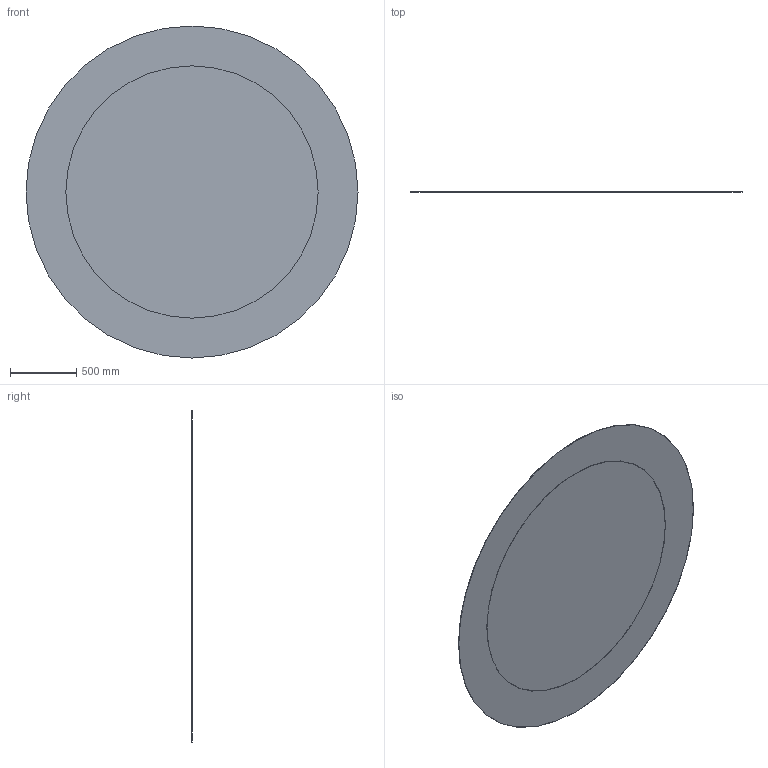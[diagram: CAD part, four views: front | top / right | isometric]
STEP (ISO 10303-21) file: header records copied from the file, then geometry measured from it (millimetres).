
FILE_DESCRIPTION(/* description */ (''),/* implementation_level */ '2;1');
FILE_NAME(/* name */ 'X:\PROGETTI\Tappeto ONDA\TA03.stp',/* time_stamp */ '2023-09-04T15:01:48+02:00',/* author */ ('Michela.Gerbotto'),/* organization */ (''),/* preprocessor_version */ 'ST-DEVELOPER v18.1',/* originating_system */ 'Autodesk Inventor 2022',/* authorisation */ '');
FILE_SCHEMA (('AUTOMOTIVE_DESIGN { 1 0 10303 214 3 1 1 }'));
Length unit declared in the file: millimetre
Products named in the file (1): Parte19
Bounding box: 2500 x 5 x 2500 mm (x, y, z)
Volume: 24526705.4 mm3; surface area: 9899445.8 mm2
Topology: 2 solids, 2 shells, 10 faces, 18 edges, 12 vertices
Faces by surface type: plane 4, torus 3, cylinder 3
Full cylindrical faces by diameter (mm): 1900 x2, 2500 x1
Entity records: 303 total; most frequent: DIRECTION 55, CARTESIAN_POINT 41, ORIENTED_EDGE 36, AXIS2_PLACEMENT_3D 26, EDGE_CURVE 18, CIRCLE 15, EDGE_LOOP 12, VERTEX_POINT 12
